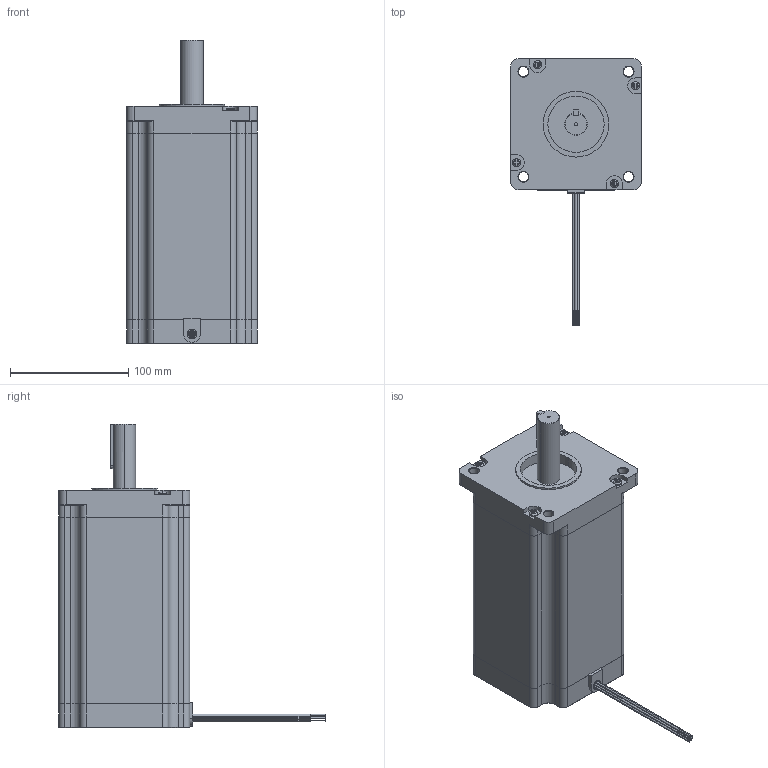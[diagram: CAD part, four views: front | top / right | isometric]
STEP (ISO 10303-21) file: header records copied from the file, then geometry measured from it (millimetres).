
FILE_DESCRIPTION (( 'STEP AP214' ), '1' );
FILE_NAME ('42Y302S-LW8.STEP', '2010-06-11T15:42:00', ( 'Tim Raines' ), ( 'Anaheim Automation' ), 'SwSTEP 2.0', 'SolidWorks 2010', '' );
FILE_SCHEMA (( 'AUTOMOTIVE_DESIGN' ));
Length unit declared in the file: inch
Products named in the file (1): 42Y302S-LW8
Bounding box: 110.62 x 224.92 x 256.62 mm (x, y, z)
Volume: 2218277.9 mm3; surface area: 120484.9 mm2
Topology: 1 solids, 1 shells, 360 faces, 905 edges, 573 vertices
Faces by surface type: plane 178, cylinder 121, cone 53, torus 8
Entity records: 15592 total; most frequent: CARTESIAN_POINT 2145, DIRECTION 1858, ORIENTED_EDGE 1794, EDGE_CURVE 897, AXIS2_PLACEMENT_3D 670, VERTEX_POINT 573, VECTOR 518, LINE 518
